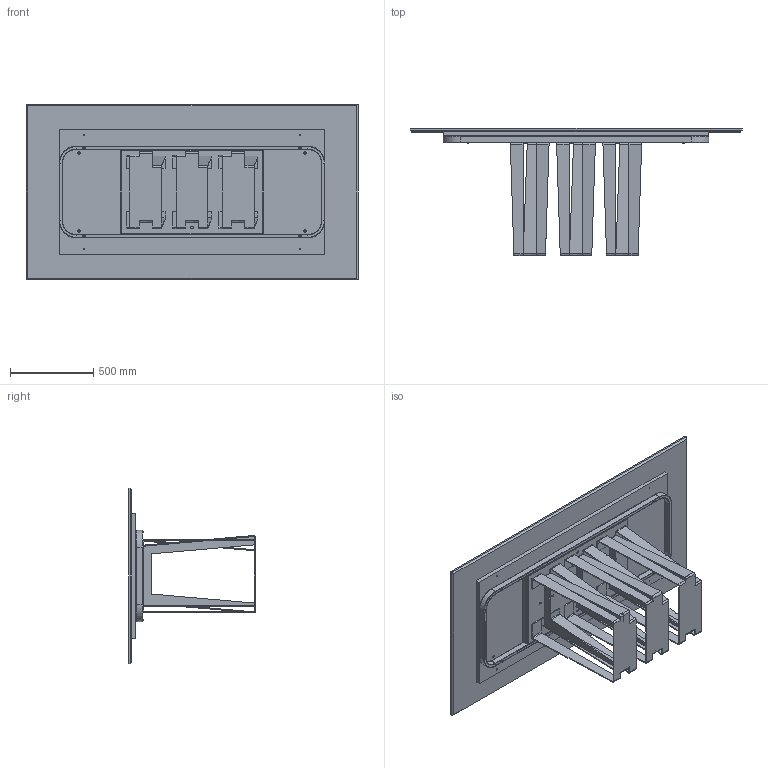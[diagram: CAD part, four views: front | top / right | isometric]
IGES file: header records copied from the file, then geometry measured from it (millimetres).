
Start section: SolidWorks IGES file using analytic representation for surfaces
Global section: file name: Y:\eforma\TECNICO\SOLIDWORKS\E-FORMA\1-TAVOLI\NARCISO\02 parts\NA21M.IGS; native system: SolidWorks 2022; preprocessor: SolidWorks 2022; author: eforma.tech; date: 240807.164033; units: millimetre
Bounding box: 2000 x 765 x 1060 mm (x, y, z)
Volume: 83667383.7 mm3; surface area: 11760097.5 mm2
Topology: 27 solids, 27 shells, 1177 faces, 2889 edges, 1737 vertices
Faces by surface type: plane 591, revolution 550, bspline 36
